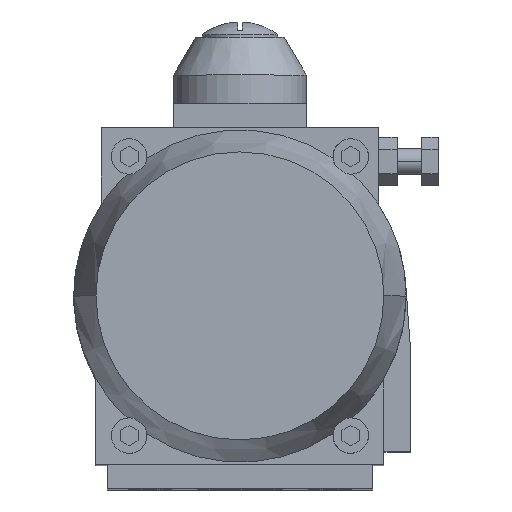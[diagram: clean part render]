
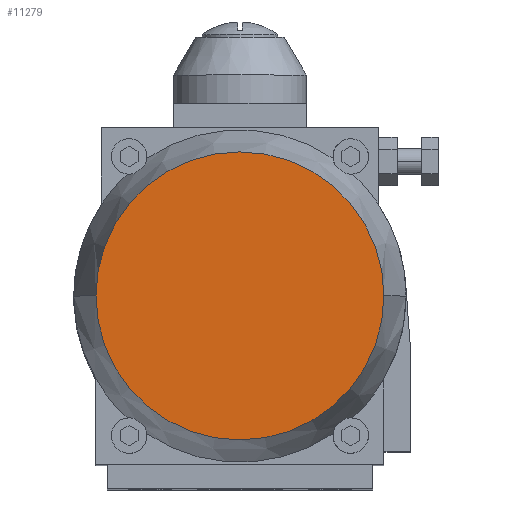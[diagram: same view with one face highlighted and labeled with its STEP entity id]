
A CAD part, top view. The second image highlights one B-rep face of the part: STEP entity #11279.
In plain terms, the highlighted planar face has unit normal (0, 0, 1).
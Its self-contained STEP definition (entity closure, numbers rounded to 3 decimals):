
#10359=CARTESIAN_POINT('',(0.,0.,197.5));
#10360=DIRECTION('',(0.,0.,-1.));
#10361=DIRECTION('',(-1.,0.,0.));
#10362=AXIS2_PLACEMENT_3D('',#10359,#10360,#10361);
#10364=CARTESIAN_POINT('',(0.,0.,197.5));
#10365=DIRECTION('',(0.,0.,-1.));
#10366=DIRECTION('',(1.,0.,0.));
#10367=AXIS2_PLACEMENT_3D('',#10364,#10365,#10366);
#10594=CARTESIAN_POINT('',(-65.,0.,197.5));
#10595=CARTESIAN_POINT('',(65.,0.,197.5));
#10596=VERTEX_POINT('',#10594);
#10597=VERTEX_POINT('',#10595);
#11270=CARTESIAN_POINT('',(0.,0.,197.5));
#11271=DIRECTION('',(0.,0.,1.));
#11272=DIRECTION('',(1.,0.,0.));
#11273=AXIS2_PLACEMENT_3D('',#11270,#11271,#11272);
#11274=PLANE('',#11273);
#11275=ORIENTED_EDGE('',*,*,#10894,.T.);
#11276=ORIENTED_EDGE('',*,*,#11032,.T.);
#11277=EDGE_LOOP('',(#11275,#11276));
#11278=FACE_OUTER_BOUND('',#11277,.F.);
#11279=ADVANCED_FACE('',(#11278),#11274,.T.);
#10363=CIRCLE('',#10362,65.);
#10368=CIRCLE('',#10367,65.);
#10894=EDGE_CURVE('',#10596,#10597,#10363,.T.);
#11032=EDGE_CURVE('',#10597,#10596,#10368,.T.);
